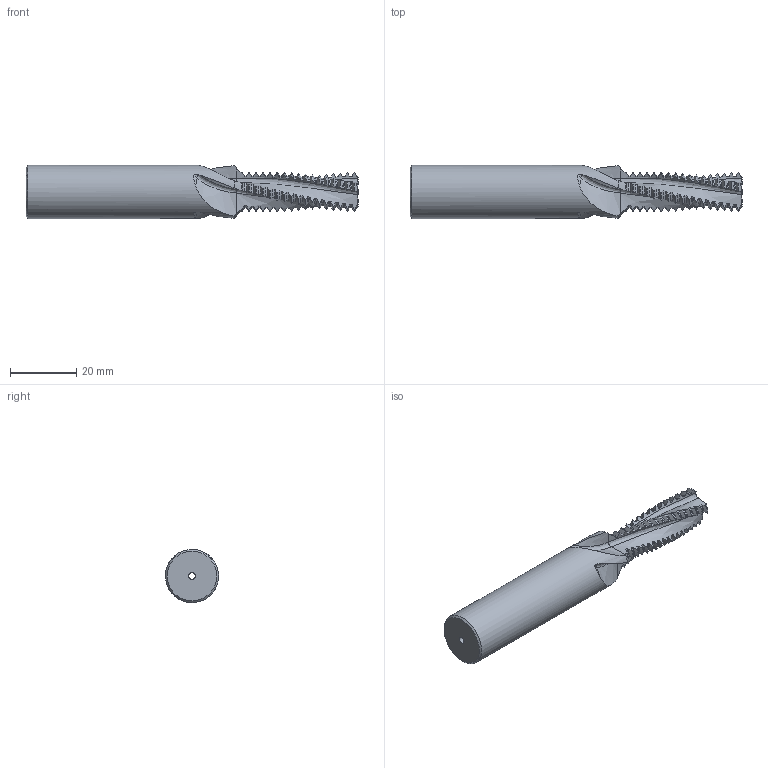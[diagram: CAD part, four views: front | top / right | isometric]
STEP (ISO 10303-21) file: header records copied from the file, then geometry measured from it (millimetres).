
FILE_DESCRIPTION(/* description */ (''),/* implementation_level */ '2;1');
FILE_NAME(/* name */ '00036545-STEP',/* time_stamp */ '2024-02-20T14:23:33+01:00',/* author */ (''),/* organization */ (''),/* preprocessor_version */ 'ST-DEVELOPER v16.5',/* originating_system */ 'HiCAD 2017 2201.0 Build 268',/* authorisation */ '');
FILE_SCHEMA (('AUTOMOTIVE_DESIGN { 1 0 10303 214 1 1 1 1 }'));
Products named in the file (2): Root; ROTATIONSTEIL_1
Assembly tree (1 placements, depth 2):
  Root
    ROTATIONSTEIL_1
Bounding box: 100 x 16 x 16 mm (x, y, z)
Volume: 13339.7 mm3; surface area: 5739.3 mm2
Topology: 1 solids, 1 shells, 441 faces, 1307 edges, 868 vertices
Faces by surface type: cylinder 138, cone 137, torus 132, bspline 32, plane 2
Full cylindrical faces by diameter (mm): 2 x1, 16 x1
Entity records: 45214 total; most frequent: CARTESIAN_POINT 22773, PRESENTATION_STYLE_ASSIGNMENT 2603, COLOUR_RGB 2603, DRAUGHTING_PRE_DEFINED_CURVE_FONT 2602, CURVE_STYLE 2602, OVER_RIDING_STYLED_ITEM 2602, ORIENTED_EDGE 2602, DIRECTION 1648
